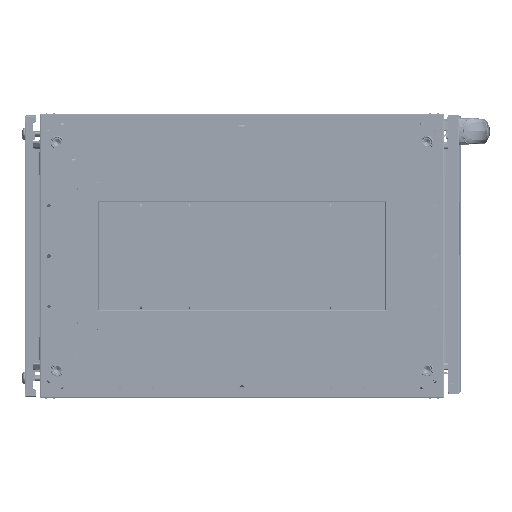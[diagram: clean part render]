
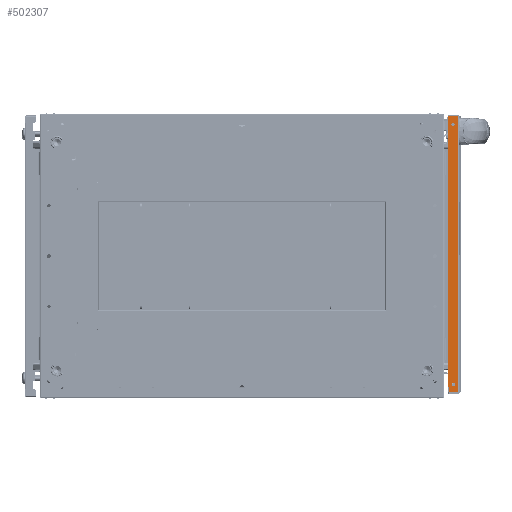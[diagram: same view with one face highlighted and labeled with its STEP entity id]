
A CAD part, front view. The second image highlights one B-rep face of the part: STEP entity #502307.
In plain terms, the highlighted planar face has unit normal (0, -1, 0) as drawn and (-1, 0, 0) by its records, which use the part's own axes.
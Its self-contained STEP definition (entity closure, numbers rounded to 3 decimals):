
#3600 = VERTEX_POINT ( 'NONE', #103297 ) ;
#14925 = DIRECTION ( 'NONE',  ( 1., 0., 0. ) ) ;
#15220 = VECTOR ( 'NONE', #209283, 1000. ) ;
#16406 = DIRECTION ( 'NONE',  ( 0., 0., -1. ) ) ;
#22829 = CARTESIAN_POINT ( 'NONE',  ( -2.01, 16., -388. ) ) ;
#33705 = DIRECTION ( 'NONE',  ( 0., 0., -1. ) ) ;
#39708 = CARTESIAN_POINT ( 'NONE',  ( -2.01, 9., -377. ) ) ;
#43339 = CIRCLE ( 'NONE', #268141, 2.3 ) ;
#47103 = EDGE_CURVE ( 'NONE', #250029, #3600, #319858, .T. ) ;
#51238 = AXIS2_PLACEMENT_3D ( 'NONE', #499717, #212647, #84051 ) ;
#59236 = CARTESIAN_POINT ( 'NONE',  ( -2.01, 16., -388. ) ) ;
#65873 = AXIS2_PLACEMENT_3D ( 'NONE', #101577, #199347, #373737 ) ;
#83714 = LINE ( 'NONE', #270212, #562395 ) ;
#84051 = DIRECTION ( 'NONE',  ( 0., 0., -1. ) ) ;
#101577 = CARTESIAN_POINT ( 'NONE',  ( -2.01, 9., -11. ) ) ;
#103297 = CARTESIAN_POINT ( 'NONE',  ( -2.01, 9., -8.7 ) ) ;
#106298 = VERTEX_POINT ( 'NONE', #267179 ) ;
#109940 = CARTESIAN_POINT ( 'NONE',  ( -2.01, 9., -13.3 ) ) ;
#117586 = ORIENTED_EDGE ( 'NONE', *, *, #314419, .T. ) ;
#138895 = AXIS2_PLACEMENT_3D ( 'NONE', #39708, #510262, #33705 ) ;
#145042 = LINE ( 'NONE', #349519, #545334 ) ;
#154985 = EDGE_CURVE ( 'NONE', #354006, #491735, #363197, .T. ) ;
#184108 = ORIENTED_EDGE ( 'NONE', *, *, #47103, .T. ) ;
#196583 = FACE_BOUND ( 'NONE', #531801, .T. ) ;
#197971 = EDGE_CURVE ( 'NONE', #437660, #467110, #145042, .T. ) ;
#199347 = DIRECTION ( 'NONE',  ( 1., 0., 0. ) ) ;
#208939 = DIRECTION ( 'NONE',  ( 0., 1., 0. ) ) ;
#209283 = DIRECTION ( 'NONE',  ( 0., -1., 0. ) ) ;
#212647 = DIRECTION ( 'NONE',  ( 1., 0., 0. ) ) ;
#217807 = EDGE_LOOP ( 'NONE', ( #602465, #500784, #313085, #543472 ) ) ;
#222725 = CARTESIAN_POINT ( 'NONE',  ( -2.01, 2.01, 0. ) ) ;
#230531 = CARTESIAN_POINT ( 'NONE',  ( -2.01, 9., -379.3 ) ) ;
#236430 = FACE_BOUND ( 'NONE', #363632, .T. ) ;
#240914 = LINE ( 'NONE', #22829, #15220 ) ;
#250029 = VERTEX_POINT ( 'NONE', #109940 ) ;
#255738 = CARTESIAN_POINT ( 'NONE',  ( -2.01, 9., -374.7 ) ) ;
#256074 = EDGE_CURVE ( 'NONE', #467110, #337597, #343455, .T. ) ;
#267179 = CARTESIAN_POINT ( 'NONE',  ( -2.01, 2.01, -388. ) ) ;
#268141 = AXIS2_PLACEMENT_3D ( 'NONE', #296155, #14925, #335982 ) ;
#270212 = CARTESIAN_POINT ( 'NONE',  ( -2.01, 2.01, -388. ) ) ;
#282261 = FACE_OUTER_BOUND ( 'NONE', #217807, .T. ) ;
#296155 = CARTESIAN_POINT ( 'NONE',  ( -2.01, 9., -377. ) ) ;
#313085 = ORIENTED_EDGE ( 'NONE', *, *, #256074, .T. ) ;
#314419 = EDGE_CURVE ( 'NONE', #3600, #250029, #314790, .T. ) ;
#314790 = CIRCLE ( 'NONE', #51238, 2.3 ) ;
#319858 = CIRCLE ( 'NONE', #65873, 2.3 ) ;
#328127 = DIRECTION ( 'NONE',  ( 0., 1., 0. ) ) ;
#333011 = EDGE_CURVE ( 'NONE', #437660, #106298, #83714, .T. ) ;
#335982 = DIRECTION ( 'NONE',  ( 0., 0., -1. ) ) ;
#337597 = VERTEX_POINT ( 'NONE', #528146 ) ;
#343455 = LINE ( 'NONE', #59236, #459290 ) ;
#349519 = CARTESIAN_POINT ( 'NONE',  ( -2.01, 16., 0. ) ) ;
#350113 = ORIENTED_EDGE ( 'NONE', *, *, #432892, .T. ) ;
#354006 = VERTEX_POINT ( 'NONE', #255738 ) ;
#363197 = CIRCLE ( 'NONE', #138895, 2.3 ) ;
#363632 = EDGE_LOOP ( 'NONE', ( #350113, #536463 ) ) ;
#364548 = EDGE_CURVE ( 'NONE', #337597, #106298, #240914, .T. ) ;
#373737 = DIRECTION ( 'NONE',  ( 0., 0., -1. ) ) ;
#410716 = DIRECTION ( 'NONE',  ( 0., 0., -1. ) ) ;
#412268 = CARTESIAN_POINT ( 'NONE',  ( -2.01, 16., 0. ) ) ;
#431811 = DIRECTION ( 'NONE',  ( 1., 0., 0. ) ) ;
#432892 = EDGE_CURVE ( 'NONE', #491735, #354006, #43339, .T. ) ;
#437660 = VERTEX_POINT ( 'NONE', #222725 ) ;
#452471 = AXIS2_PLACEMENT_3D ( 'NONE', #572319, #431811, #328127 ) ;
#459290 = VECTOR ( 'NONE', #16406, 1000. ) ;
#467110 = VERTEX_POINT ( 'NONE', #412268 ) ;
#491735 = VERTEX_POINT ( 'NONE', #230531 ) ;
#499717 = CARTESIAN_POINT ( 'NONE',  ( -2.01, 9., -11. ) ) ;
#500784 = ORIENTED_EDGE ( 'NONE', *, *, #197971, .T. ) ;
#502307 = ADVANCED_FACE ( 'NONE', ( #236430, #196583, #282261 ), #526499, .F. ) ;
#510262 = DIRECTION ( 'NONE',  ( 1., 0., 0. ) ) ;
#526499 = PLANE ( 'NONE',  #452471 ) ;
#528146 = CARTESIAN_POINT ( 'NONE',  ( -2.01, 16., -388. ) ) ;
#531801 = EDGE_LOOP ( 'NONE', ( #184108, #117586 ) ) ;
#536463 = ORIENTED_EDGE ( 'NONE', *, *, #154985, .T. ) ;
#543472 = ORIENTED_EDGE ( 'NONE', *, *, #364548, .T. ) ;
#545334 = VECTOR ( 'NONE', #208939, 1000. ) ;
#562395 = VECTOR ( 'NONE', #410716, 1000. ) ;
#572319 = CARTESIAN_POINT ( 'NONE',  ( -2.01, 16., -388. ) ) ;
#602465 = ORIENTED_EDGE ( 'NONE', *, *, #333011, .F. ) ;
